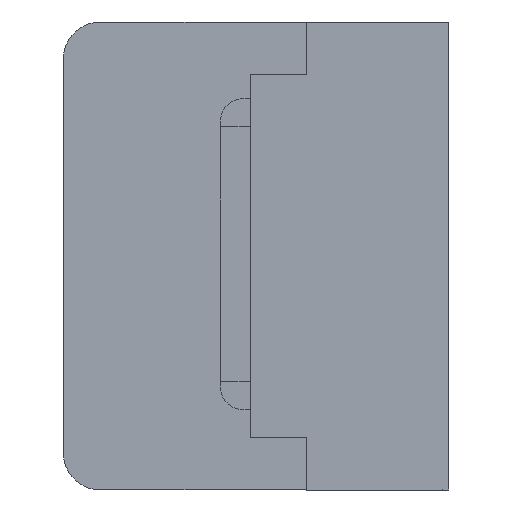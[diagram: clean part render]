
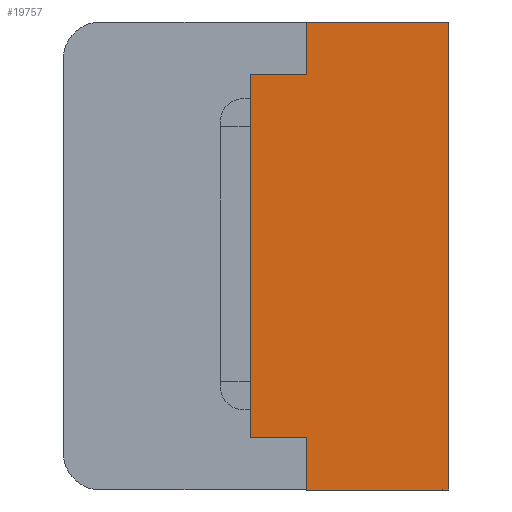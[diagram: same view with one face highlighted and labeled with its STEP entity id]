
A CAD part, left-side view. The second image highlights one B-rep face of the part: STEP entity #19757.
In plain terms, the highlighted planar face has unit normal (-1, 0, 0).
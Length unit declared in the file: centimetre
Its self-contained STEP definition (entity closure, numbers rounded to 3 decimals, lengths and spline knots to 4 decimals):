
#1244=PLANE('',#32490);
#1964=VECTOR('',#21029,1.);
#2045=VECTOR('',#21145,1.);
#2047=VECTOR('',#21150,1.);
#2072=VECTOR('',#21176,1.);
#3071=VECTOR('',#23462,1.);
#3072=VECTOR('',#23463,1.);
#3073=VECTOR('',#23464,1.);
#3074=VECTOR('',#23465,1.);
#4050=LINE('',#26127,#1964);
#4131=LINE('',#26304,#2045);
#4133=LINE('',#26310,#2047);
#4158=LINE('',#26359,#2072);
#5157=LINE('',#29849,#3071);
#5158=LINE('',#29851,#3072);
#5159=LINE('',#29852,#3073);
#5160=LINE('',#29854,#3074);
#6072=VERTEX_POINT('',#26126);
#6073=VERTEX_POINT('',#26128);
#6114=VERTEX_POINT('',#26244);
#6143=VERTEX_POINT('',#26303);
#6145=VERTEX_POINT('',#26309);
#6169=VERTEX_POINT('',#26360);
#7141=VERTEX_POINT('',#29850);
#7142=VERTEX_POINT('',#29853);
#8612=EDGE_CURVE('',#6072,#6073,#4050,.T.);
#8700=EDGE_CURVE('',#6143,#6114,#4131,.T.);
#8703=EDGE_CURVE('',#6114,#6145,#4133,.T.);
#8728=EDGE_CURVE('',#6145,#6169,#4158,.T.);
#10230=EDGE_CURVE('',#7141,#6143,#5157,.T.);
#10231=EDGE_CURVE('',#6073,#7141,#5158,.T.);
#10232=EDGE_CURVE('',#7142,#6072,#5159,.T.);
#10233=EDGE_CURVE('',#6169,#7142,#5160,.T.);
#15517=ORIENTED_EDGE('',*,*,#10230,.F.);
#15518=ORIENTED_EDGE('',*,*,#10231,.F.);
#15519=ORIENTED_EDGE('',*,*,#8612,.F.);
#15520=ORIENTED_EDGE('',*,*,#10232,.F.);
#15521=ORIENTED_EDGE('',*,*,#10233,.F.);
#15522=ORIENTED_EDGE('',*,*,#8728,.F.);
#15523=ORIENTED_EDGE('',*,*,#8703,.F.);
#15524=ORIENTED_EDGE('',*,*,#8700,.F.);
#17487=EDGE_LOOP('',(#15517,#15518,#15519,#15520,#15521,#15522,#15523,#15524));
#18661=FACE_BOUND('',#17487,.T.);
#19757=ADVANCED_FACE('',(#18661),#1244,.F.);
#21029=DIRECTION('',(0.,0.,1.));
#21145=DIRECTION('',(0.,-1.,0.));
#21150=DIRECTION('',(0.,0.,-1.));
#21176=DIRECTION('',(0.,1.,0.));
#23461=DIRECTION('',(1.,0.,0.));
#23462=DIRECTION('',(0.,0.,1.));
#23463=DIRECTION('',(0.,-1.,0.));
#23464=DIRECTION('',(0.,1.,0.));
#23465=DIRECTION('',(0.,0.,1.));
#26126=CARTESIAN_POINT('',(-1.382,0.53,-0.485));
#26127=CARTESIAN_POINT('',(-1.382,0.53,-0.485));
#26128=CARTESIAN_POINT('',(-1.382,0.53,0.485));
#26244=CARTESIAN_POINT('',(-1.382,0.,0.625));
#26303=CARTESIAN_POINT('',(-1.382,0.38,0.625));
#26304=CARTESIAN_POINT('',(-1.382,0.38,0.625));
#26309=CARTESIAN_POINT('',(-1.382,0.,-0.625));
#26310=CARTESIAN_POINT('',(-1.382,0.,0.625));
#26359=CARTESIAN_POINT('',(-1.382,0.,-0.625));
#26360=CARTESIAN_POINT('',(-1.382,0.38,-0.625));
#29848=CARTESIAN_POINT('',(-1.382,0.2532,0.));
#29849=CARTESIAN_POINT('',(-1.382,0.38,0.485));
#29850=CARTESIAN_POINT('',(-1.382,0.38,0.485));
#29851=CARTESIAN_POINT('',(-1.382,0.53,0.485));
#29852=CARTESIAN_POINT('',(-1.382,0.38,-0.485));
#29853=CARTESIAN_POINT('',(-1.382,0.38,-0.485));
#29854=CARTESIAN_POINT('',(-1.382,0.38,-0.625));
#32490=AXIS2_PLACEMENT_3D('',#29848,#23461,$);
